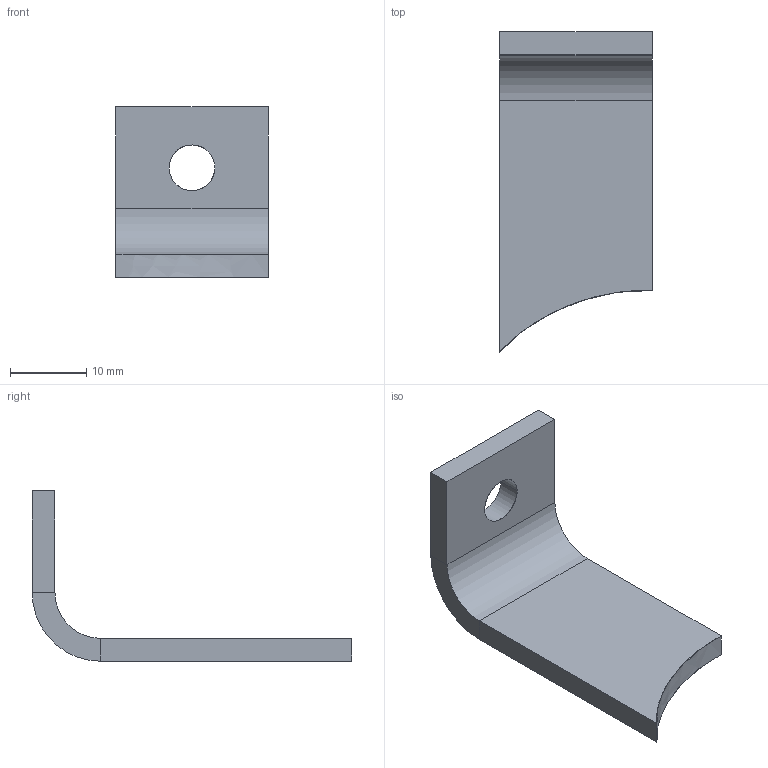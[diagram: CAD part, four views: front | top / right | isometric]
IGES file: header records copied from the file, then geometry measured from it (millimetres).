
Start section: START RECORD GO HERE.
Global section: file name: 20M_MS_01009 (Chape baquet avant).igs; native system: IBM CATIA IGES - CATIA Version 5 Release 19 ; preprocessor: CATIA Version 5 Release 19 ; author: mik75; organization: LAPTOP-SUH344G9; date: 20200112.112843; units: millimetre
Bounding box: 20 x 41.92 x 22.34 mm (x, y, z)
Surface area: 2543.8 mm2 (no closed solid volume)
Topology: 0 solids, 0 shells, 16 faces, 68 edges, 68 vertices
Faces by surface type: plane 11, revolution 4, extrusion 1
